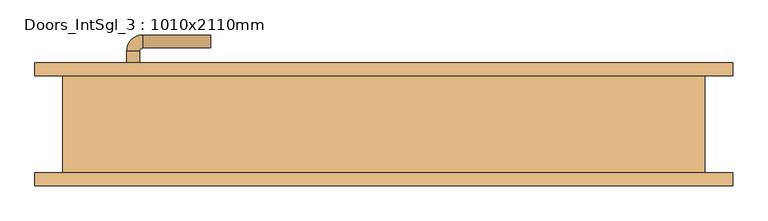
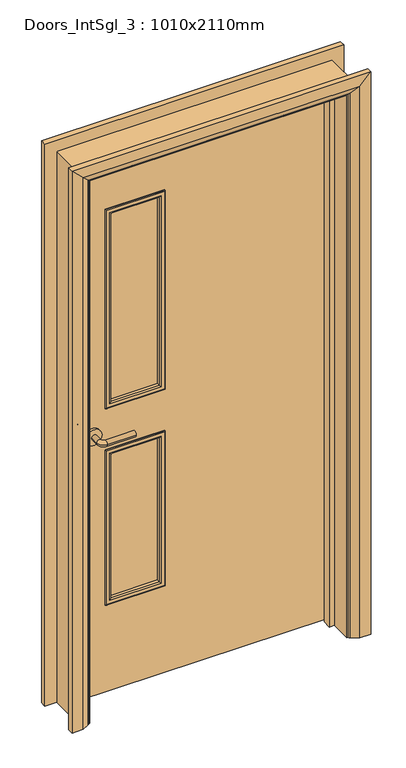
"""IFC4 building model written with IfcOpenShell, lengths in millimetres: door geometry, Doors_IntSgl_3 : 1010x2110mm."""

from ifc_helpers import new_model, si_unit, point, frame, frame_2d, origin, place, context, project, spatial, polyline, circle_curve, ellipse_curve, trimmed, segment, composite_curve, outline, extrude, faceted_brep, source, transform, mapped, element, save
from ifc_brep_helpers import plane_surface, cylinder_surface, revolved_surface, advanced_brep


def doors_intsgl_3_1010x2110mm_4cc0f6b2(model_context):
    return source(origin(), model_context, "Body", "SolidModel", [
        advanced_brep(
        [(-398.0, 29.0, 1000.0), (-378.0, 29.0, 1000.0), (-378.0, -1.0, 1000.0), (-398.0, -1.0, 1000.0), (-373.0, -6.0, 1000.0), (-373.0, -26.0, 1000.0), (-268.0, -26.0, 1000.0), (-268.0, -6.0, 1000.0)],
        [
            (0, 1, circle_curve(frame((-388.0, 29.0, 1000.0), z_axis=(0.0, 1.0, 0.0), x_axis=(1.0, 0.0, 0.0)), 10.0)),
            (1, 0, circle_curve(frame((-388.0, 29.0, 1000.0), z_axis=(0.0, 1.0, 0.0), x_axis=(1.0, 0.0, 0.0)), 10.0)),
            (1, 2),
            (2, 3, circle_curve(frame((-388.0, -1.0, 1000.0), z_axis=(0.0, 1.0, 0.0), x_axis=(1.0, 0.0, 0.0)), 10.0)),
            (3, 0),
            (3, 2, circle_curve(frame((-388.0, -1.0, 1000.0), z_axis=(0.0, 1.0, 0.0), x_axis=(1.0, 0.0, 0.0)), 10.0)),
            (4, 5, circle_curve(frame((-373.0, -16.0, 1000.0), z_axis=(-1.0, 0.0, 0.0), x_axis=(0.0, 1.0, 0.0)), 10.0)),
            (5, 3, circle_curve(frame((-373.0, -1.0, 1000.0), z_axis=(0.0, 0.0, -1.0), x_axis=(-1.0, 0.0, 0.0)), 25.0)),
            (2, 4, circle_curve(frame((-373.0, -1.0, 1000.0), z_axis=(0.0, 0.0, 1.0), x_axis=(-1.0, 0.0, 0.0)), 5.0)),
            (5, 4, circle_curve(frame((-373.0, -16.0, 1000.0), z_axis=(-1.0, 0.0, 0.0), x_axis=(0.0, 1.0, 0.0)), 10.0)),
            (6, 7, circle_curve(frame((-268.0, -16.0, 1000.0), z_axis=(1.0, 0.0, 0.0), x_axis=(0.0, 1.0, 0.0)), 10.0)),
            (7, 6, circle_curve(frame((-268.0, -16.0, 1000.0), z_axis=(1.0, 0.0, 0.0), x_axis=(0.0, 1.0, 0.0)), 10.0)),
            (4, 7),
            (6, 5),
        ],
        [
            plane_surface(frame((-388.0, 29.0, 1000.0), z_axis=(0.0, 1.0, 0.0), x_axis=(0.0, 0.0, 1.0))),
            cylinder_surface(frame((-388.0, 29.0, 1000.0), z_axis=(0.0, 1.0, 0.0), x_axis=(1.0, 0.0, 0.0)), 10.0),
            revolved_surface(trimmed(ellipse_curve(frame((-388.0, -1.0, 1000.0), z_axis=(0.0, -1.0, 0.0), x_axis=(1.0, 0.0, 0.0)), 10.0, 10.0), [point((-398.0, -1.0, 1000.0))], [point((-378.0, -1.0, 1000.0))], True, "CARTESIAN"), (-373.0, -1.0, 1000.0), (0.0, 0.0, -1.0)),
            revolved_surface(trimmed(ellipse_curve(frame((-388.0, -1.0, 1000.0), z_axis=(0.0, -1.0, 0.0), x_axis=(1.0, 0.0, 0.0)), 10.0, 10.0), [point((-378.0, -1.0, 1000.0))], [point((-398.0, -1.0, 1000.0))], True, "CARTESIAN"), (-373.0, -1.0, 1000.0), (0.0, 0.0, -1.0)),
            plane_surface(frame((-268.0, -16.0, 1000.0), z_axis=(1.0, 0.0, 0.0), x_axis=(0.0, 0.0, 1.0))),
            cylinder_surface(frame((-373.0, -16.0, 1000.0), z_axis=(-1.0, 0.0, 0.0), x_axis=(0.0, 1.0, 0.0)), 10.0),
        ],
        [
            (0, [[1, 2]]),
            (1, [[3, 4, 5, -2]]),
            (1, [[-5, 6, -3, -1]]),
            (2, [[7, 8, -4, 9]]),
            (3, [[10, -9, -6, -8]]),
            (4, [[11, 12]]),
            (5, [[13, -11, 14, -7]]),
            (5, [[-14, -12, -13, -10]]),
        ],
    ),
        extrude(outline(composite_curve([segment(trimmed(circle_curve(frame_2d((1000.0, -390.5)), 30.0), [point((1000.0, -420.5))], [point((1000.0, -360.5))], False, "CARTESIAN"), True, "CONTINUOUS"), segment(trimmed(circle_curve(frame_2d((1000.0, -390.5)), 30.0), [point((1000.0, -360.5))], [point((1000.0, -420.5))], False, "CARTESIAN"), True, "CONTINUOUS")], self_intersect=False)), frame((0.0, 29.0, 0.0), z_axis=(0.0, 1.0, 0.0), x_axis=(0.0, 0.0, 1.0)), (0.0, 0.0, 1.0), 8.0),
        advanced_brep(
        [(-398.0, 83.0, 1000.0), (-378.0, 83.0, 1000.0), (-398.0, 113.0, 1000.0), (-378.0, 113.0, 1000.0), (-373.0, 118.0, 1000.0), (-373.0, 138.0, 1000.0), (-268.0, 138.0, 1000.0), (-268.0, 118.0, 1000.0)],
        [
            (0, 1, circle_curve(frame((-388.0, 83.0, 1000.0), z_axis=(0.0, -1.0, 0.0), x_axis=(1.0, 0.0, 0.0)), 10.0)),
            (1, 0, circle_curve(frame((-388.0, 83.0, 1000.0), z_axis=(0.0, -1.0, 0.0), x_axis=(1.0, 0.0, 0.0)), 10.0)),
            (0, 2),
            (2, 3, circle_curve(frame((-388.0, 113.0, 1000.0), z_axis=(0.0, -1.0, 0.0), x_axis=(1.0, 0.0, 0.0)), 10.0)),
            (3, 1),
            (3, 2, circle_curve(frame((-388.0, 113.0, 1000.0), z_axis=(0.0, -1.0, 0.0), x_axis=(1.0, 0.0, 0.0)), 10.0)),
            (4, 3, circle_curve(frame((-373.0, 113.0, 1000.0), z_axis=(0.0, 0.0, 1.0), x_axis=(-1.0, 0.0, 0.0)), 5.0)),
            (2, 5, circle_curve(frame((-373.0, 113.0, 1000.0), z_axis=(0.0, 0.0, -1.0), x_axis=(-1.0, 0.0, 0.0)), 25.0)),
            (5, 4, circle_curve(frame((-373.0, 128.0, 1000.0), z_axis=(-1.0, 0.0, 0.0), x_axis=(0.0, -1.0, 0.0)), 10.0)),
            (4, 5, circle_curve(frame((-373.0, 128.0, 1000.0), z_axis=(-1.0, 0.0, 0.0), x_axis=(0.0, -1.0, 0.0)), 10.0)),
            (6, 7, circle_curve(frame((-268.0, 128.0, 1000.0), z_axis=(1.0, 0.0, 0.0), x_axis=(0.0, -1.0, 0.0)), 10.0)),
            (7, 6, circle_curve(frame((-268.0, 128.0, 1000.0), z_axis=(1.0, 0.0, 0.0), x_axis=(0.0, -1.0, 0.0)), 10.0)),
            (5, 6),
            (7, 4),
        ],
        [
            plane_surface(frame((-388.0, 83.0, 1000.0), z_axis=(0.0, -1.0, 0.0), x_axis=(0.0, 0.0, 1.0))),
            cylinder_surface(frame((-388.0, 83.0, 1000.0), z_axis=(0.0, -1.0, 0.0), x_axis=(1.0, 0.0, 0.0)), 10.0),
            revolved_surface(trimmed(ellipse_curve(frame((-388.0, 113.0, 1000.0), z_axis=(0.0, -1.0, 0.0), x_axis=(1.0, 0.0, 0.0)), 10.0, 10.0), [point((-398.0, 113.0, 1000.0))], [point((-378.0, 113.0, 1000.0))], True, "CARTESIAN"), (-373.0, 113.0, 1000.0), (0.0, 0.0, -1.0)),
            revolved_surface(trimmed(ellipse_curve(frame((-388.0, 113.0, 1000.0), z_axis=(0.0, -1.0, 0.0), x_axis=(1.0, 0.0, 0.0)), 10.0, 10.0), [point((-378.0, 113.0, 1000.0))], [point((-398.0, 113.0, 1000.0))], True, "CARTESIAN"), (-373.0, 113.0, 1000.0), (0.0, 0.0, -1.0)),
            plane_surface(frame((-268.0, 128.0, 1000.0), z_axis=(1.0, 0.0, 0.0), x_axis=(0.0, 0.0, 1.0))),
            cylinder_surface(frame((-373.0, 128.0, 1000.0), z_axis=(-1.0, 0.0, 0.0), x_axis=(0.0, -1.0, 0.0)), 10.0),
        ],
        [
            (0, [[1, 2]]),
            (1, [[-1, 3, 4, 5]]),
            (1, [[-2, -5, 6, -3]]),
            (2, [[7, -4, 8, 9]]),
            (3, [[-8, -6, -7, 10]]),
            (4, [[11, 12]]),
            (5, [[-9, 13, -12, 14]]),
            (5, [[-10, -14, -11, -13]]),
        ],
    ),
        extrude(outline(composite_curve([segment(trimmed(circle_curve(frame_2d((1000.0, -390.5)), 30.0), [point((1000.0, -420.5))], [point((1000.0, -360.5))], False, "CARTESIAN"), True, "CONTINUOUS"), segment(trimmed(circle_curve(frame_2d((1000.0, -390.5)), 30.0), [point((1000.0, -360.5))], [point((1000.0, -420.5))], False, "CARTESIAN"), True, "CONTINUOUS")], self_intersect=False)), frame((0.0, 75.0, 0.0), z_axis=(0.0, 1.0, 0.0), x_axis=(0.0, 0.0, 1.0)), (0.0, 0.0, 1.0), 8.0),
        extrude(outline(polyline([(2068.0, -463.0), (8.0, -463.0), (8.0, 463.0), (2068.0, 463.0), (2068.0, -463.0)]), holes=[polyline([(1843.0, -138.0), (1100.0, -138.0), (1100.0, -338.0), (1843.0, -338.0), (1843.0, -138.0)]), polyline([(925.0, -338.0), (925.0, -138.0), (350.0, -138.0), (350.0, -338.0), (925.0, -338.0)])]), frame((0.0, 37.0, 0.0), z_axis=(0.0, 1.0, 0.0), x_axis=(0.0, 0.0, 1.0)), (0.0, 0.0, 1.0), 38.0),
        advanced_brep(
        [(540.0, 95.0, 0.0), (540.0, 75.0, 0.0), (470.0, 75.0, 0.0), (474.0, 81.0, 0.0), (500.0, 95.0, 0.0), (540.0, 95.0, 2145.0), (540.0, 75.0, 2145.0), (-540.0, 75.0, 2145.0), (-540.0, 75.0, 0.0), (-470.0, 75.0, 0.0), (-470.0, 75.0, 2075.0), (470.0, 75.0, 2075.0), (474.0, 81.0, 2079.0), (500.0, 95.0, 2105.0), (-500.0, 95.0, 2105.0), (-500.0, 95.0, 0.0), (-540.0, 95.0, 0.0), (-540.0, 95.0, 2145.0), (-474.0, 81.0, 0.0), (-474.0, 81.0, 2079.0)],
        [
            (0, 1),
            (1, 2),
            (2, 3, circle_curve(frame((478.0, 74.0, 0.0), z_axis=(0.0, 0.0, -1.0), x_axis=(1.0, 0.0, 0.0)), 8.0622577)),
            (3, 4),
            (4, 0),
            (0, 5),
            (5, 6),
            (6, 1),
            (6, 7),
            (7, 8),
            (8, 9),
            (9, 10),
            (10, 11),
            (11, 2),
            (11, 12, ellipse_curve(frame((478.0, 74.0, 2083.0), z_axis=(0.7071067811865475, 0.0, -0.7071067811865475), x_axis=(-0.7071067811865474, 0.0, -0.7071067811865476)), 11.4017543, 8.0622577)),
            (12, 3),
            (12, 13),
            (13, 4),
            (13, 14),
            (14, 15),
            (15, 16),
            (16, 17),
            (17, 5),
            (7, 17),
            (16, 8),
            (15, 18),
            (18, 9, circle_curve(frame((-478.0, 74.0, 0.0), z_axis=(0.0, 0.0, -1.0), x_axis=(-1.0, 0.0, 0.0)), 8.0622577)),
            (19, 10, ellipse_curve(frame((-478.0, 74.0, 2083.0), z_axis=(-0.7071067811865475, 0.0, -0.7071067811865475), x_axis=(-0.7071067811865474, 0.0, 0.7071067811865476)), 11.4017543, 8.0622577)),
            (18, 19),
            (14, 19),
            (19, 12),
        ],
        [
            plane_surface(frame((470.0, 75.0, 0.0), z_axis=(0.0, 0.0, -1.0), x_axis=(0.0, -1.0, 0.0))),
            plane_surface(frame((540.0, 95.0, 0.0), z_axis=(1.0, 0.0, 0.0), x_axis=(0.0, 0.0, 1.0))),
            plane_surface(frame((540.0, 75.0, 0.0), z_axis=(0.0, -1.0, 0.0), x_axis=(0.0, 0.0, 1.0))),
            cylinder_surface(frame((478.0, 74.0, 0.0), z_axis=(0.0, 0.0, -1.0), x_axis=(1.0, 0.0, 0.0)), 8.0622577),
            plane_surface(frame((474.0, 81.0, 0.0), z_axis=(-0.4740998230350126, 0.8804710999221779, 0.0), x_axis=(0.0, 0.0, 1.0))),
            plane_surface(frame((500.0, 95.0, 0.0), z_axis=(0.0, 1.0, 0.0), x_axis=(0.0, 0.0, 1.0))),
            plane_surface(frame((-540.0, 95.0, 2145.0), z_axis=(-1.0, 0.0, 0.0), x_axis=(0.0, 0.0, -1.0))),
            plane_surface(frame((-470.0, 75.0, 0.0), z_axis=(0.0, 0.0, -1.0), x_axis=(0.0, -1.0, 0.0))),
            cylinder_surface(frame((-478.0, 74.0, 2075.0), z_axis=(0.0, 0.0, 1.0), x_axis=(-1.0, 0.0, 0.0)), 8.0622577),
            plane_surface(frame((-474.0, 81.0, 2079.0), z_axis=(0.4740998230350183, 0.8804710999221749, 0.0), x_axis=(0.0, 0.0, -1.0))),
            plane_surface(frame((540.0, 95.0, 2145.0), z_axis=(0.0, 0.0, 1.0), x_axis=(-1.0, 0.0, 0.0))),
            cylinder_surface(frame((470.0, 74.0, 2083.0), z_axis=(1.0, 0.0, 0.0), x_axis=(0.0, 0.0, 1.0)), 8.0622577),
            plane_surface(frame((474.0, 81.0, 2079.0), z_axis=(0.0, 0.8804710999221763, -0.4740998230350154), x_axis=(-1.0, 0.0, 0.0))),
        ],
        [
            (0, [[1, 2, 3, 4, 5]]),
            (1, [[-1, 6, 7, 8]]),
            (2, [[-2, -8, 9, 10, 11, 12, 13, 14]]),
            (3, [[-3, -14, 15, 16]]),
            (4, [[-4, -16, 17, 18]]),
            (5, [[-5, -18, 19, 20, 21, 22, 23, -6]]),
            (6, [[24, -22, 25, -10]]),
            (7, [[-21, 26, 27, -11, -25]]),
            (8, [[28, -12, -27, 29]]),
            (9, [[30, -29, -26, -20]]),
            (10, [[-7, -23, -24, -9]]),
            (11, [[-15, -13, -28, 31]]),
            (12, [[-17, -31, -30, -19]]),
        ],
    ),
        extrude(outline(polyline([(0.0, -465.0), (0.0, -446.0), (2051.0, -446.0), (2051.0, 446.0), (0.0, 446.0), (0.0, 465.0), (2070.0, 465.0), (2070.0, -465.0), (0.0, -465.0)])), frame((0.0, 3.0, 0.0), z_axis=(0.0, 1.0, 0.0), x_axis=(0.0, 0.0, 1.0)), (0.0, 0.0, 1.0), 32.0),
        advanced_brep(
        [(-540.0, -95.0, 0.0), (-540.0, -75.0, 0.0), (-470.0, -75.0, 0.0), (-474.0, -81.0, 0.0), (-500.0, -95.0, 0.0), (-540.0, -95.0, 2145.0), (-540.0, -75.0, 2145.0), (-470.0, -75.0, 2075.0), (-474.0, -81.0, 2079.0), (-500.0, -95.0, 2105.0), (540.0, -95.0, 0.0), (500.0, -95.0, 0.0), (474.0, -81.0, 0.0), (470.0, -75.0, 0.0), (540.0, -75.0, 0.0), (540.0, -95.0, 2145.0), (500.0, -95.0, 2105.0), (474.0, -81.0, 2079.0), (470.0, -75.0, 2075.0), (540.0, -75.0, 2145.0)],
        [
            (0, 1),
            (1, 2),
            (2, 3, circle_curve(frame((-478.0, -74.0, 0.0), z_axis=(0.0, 0.0, -1.0), x_axis=(-1.0, 0.0, 0.0)), 8.0622577)),
            (3, 4),
            (4, 0),
            (0, 5),
            (5, 6),
            (6, 1),
            (6, 7),
            (7, 2),
            (7, 8, ellipse_curve(frame((-478.0, -74.0, 2083.0), z_axis=(-0.7071067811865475, 0.0, -0.7071067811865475), x_axis=(0.7071067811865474, 0.0, -0.7071067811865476)), 11.4017543, 8.0622577)),
            (8, 3),
            (8, 9),
            (9, 4),
            (9, 5),
            (10, 11),
            (11, 12),
            (12, 13, circle_curve(frame((478.0, -74.0, 0.0), z_axis=(0.0, 0.0, -1.0), x_axis=(1.0, 0.0, 0.0)), 8.0622577)),
            (13, 14),
            (14, 10),
            (15, 16),
            (16, 11),
            (10, 15),
            (16, 17),
            (17, 12),
            (17, 18, ellipse_curve(frame((478.0, -74.0, 2083.0), z_axis=(0.7071067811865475, 0.0, -0.7071067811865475), x_axis=(0.7071067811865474, 0.0, 0.7071067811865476)), 11.4017543, 8.0622577)),
            (18, 13),
            (18, 19),
            (19, 14),
            (19, 15),
            (5, 15),
            (19, 6),
            (18, 7),
            (17, 8),
            (16, 9),
        ],
        [
            plane_surface(frame((-470.0, -147.8010989, 0.0), z_axis=(0.0, 0.0, -1.0), x_axis=(1.0, 0.0, 0.0))),
            plane_surface(frame((-540.0, -95.0, 0.0), z_axis=(-1.0, 0.0, 0.0), x_axis=(0.0, 0.0, 1.0))),
            plane_surface(frame((-540.0, -75.0, 0.0), z_axis=(0.0, 1.0, 0.0), x_axis=(0.0, 0.0, 1.0))),
            cylinder_surface(frame((-478.0, -74.0, 0.0), z_axis=(0.0, 0.0, -1.0), x_axis=(-1.0, 0.0, 0.0)), 8.0622577),
            plane_surface(frame((-474.0, -81.0, 0.0), z_axis=(0.4740998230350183, -0.8804710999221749, 0.0), x_axis=(0.0, 0.0, 1.0))),
            plane_surface(frame((-500.0, -95.0, 0.0), z_axis=(0.0, -1.0, 0.0), x_axis=(0.0, 0.0, 1.0))),
            plane_surface(frame((470.0, -147.8010989, 0.0), z_axis=(0.0, 0.0, -1.0), x_axis=(-1.0, 0.0, 0.0))),
            plane_surface(frame((500.0, -95.0, 2105.0), z_axis=(0.0, -1.0, 0.0), x_axis=(0.0, 0.0, -1.0))),
            plane_surface(frame((474.0, -81.0, 2079.0), z_axis=(-0.4740998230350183, -0.8804710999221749, 0.0), x_axis=(0.0, 0.0, -1.0))),
            cylinder_surface(frame((478.0, -74.0, 2075.0), z_axis=(0.0, 0.0, 1.0), x_axis=(1.0, 0.0, 0.0)), 8.0622577),
            plane_surface(frame((540.0, -75.0, 2145.0), z_axis=(0.0, 1.0, 0.0), x_axis=(0.0, 0.0, -1.0))),
            plane_surface(frame((540.0, -95.0, 2145.0), z_axis=(1.0, 0.0, 0.0), x_axis=(0.0, 0.0, -1.0))),
            plane_surface(frame((-540.0, -95.0, 2145.0), z_axis=(0.0, 0.0, 1.0), x_axis=(1.0, 0.0, 0.0))),
            plane_surface(frame((-540.0, -75.0, 2145.0), z_axis=(0.0, 1.0, 0.0), x_axis=(1.0, 0.0, 0.0))),
            cylinder_surface(frame((-470.0, -74.0, 2083.0), z_axis=(-1.0, 0.0, 0.0), x_axis=(0.0, 0.0, 1.0)), 8.0622577),
            plane_surface(frame((-474.0, -81.0, 2079.0), z_axis=(0.0, -0.8804710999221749, -0.4740998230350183), x_axis=(1.0, 0.0, 0.0))),
            plane_surface(frame((-500.0, -95.0, 2105.0), z_axis=(0.0, -1.0, 0.0), x_axis=(1.0, 0.0, 0.0))),
        ],
        [
            (0, [[1, 2, 3, 4, 5]]),
            (1, [[-1, 6, 7, 8]]),
            (2, [[-2, -8, 9, 10]]),
            (3, [[-3, -10, 11, 12]]),
            (4, [[-4, -12, 13, 14]]),
            (5, [[-5, -14, 15, -6]]),
            (6, [[16, 17, 18, 19, 20]]),
            (7, [[21, 22, -16, 23]]),
            (8, [[24, 25, -17, -22]]),
            (9, [[26, 27, -18, -25]]),
            (10, [[28, 29, -19, -27]]),
            (11, [[30, -23, -20, -29]]),
            (12, [[-7, 31, -30, 32]]),
            (13, [[-9, -32, -28, 33]]),
            (14, [[-11, -33, -26, 34]]),
            (15, [[-13, -34, -24, 35]]),
            (16, [[-15, -35, -21, -31]]),
        ],
    ),
        faceted_brep([(-465.0, 75.0, 0.0), (-465.0, -75.0, 0.0), (-497.0, -75.0, 0.0), (-497.0, 75.0, 0.0), (-465.0, 75.0, 2070.0), (-465.0, -75.0, 2070.0), (-497.0, -75.0, 2102.0), (-497.0, 75.0, 2102.0), (465.0, 75.0, 0.0), (497.0, 75.0, 0.0), (497.0, -75.0, 0.0), (465.0, -75.0, 0.0), (465.0, 75.0, 2070.0), (497.0, 75.0, 2102.0), (497.0, -75.0, 2102.0), (465.0, -75.0, 2070.0)], [[[0, 1, 2, 3]], [[1, 0, 4, 5]], [[2, 1, 5, 6]], [[3, 2, 6, 7]], [[0, 3, 7, 4]], [[8, 9, 10, 11]], [[12, 13, 9, 8]], [[13, 14, 10, 9]], [[14, 15, 11, 10]], [[15, 12, 8, 11]], [[5, 4, 12, 15]], [[6, 5, 15, 14]], [[7, 6, 14, 13]], [[4, 7, 13, 12]]]),
        advanced_brep(
        [(-138.0, 47.0, 925.0), (-138.0, 37.0, 925.0), (-138.0, 37.0, 350.0), (-138.0, 47.0, 350.0), (-150.0, 36.0, 913.0), (-150.0, 47.0, 913.0), (-150.0, 47.0, 362.0), (-150.0, 36.0, 362.0), (-145.0, 31.0, 918.0), (-145.0, 31.0, 357.0), (-130.0, 33.0, 933.0), (-132.0, 31.0, 931.0), (-132.0, 31.0, 344.0), (-130.0, 33.0, 342.0), (-130.0, 37.0, 933.0), (-130.0, 37.0, 342.0), (-338.0, 37.0, 350.0), (-338.0, 47.0, 350.0), (-326.0, 47.0, 362.0), (-326.0, 36.0, 362.0), (-331.0, 31.0, 357.0), (-344.0, 31.0, 344.0), (-346.0, 33.0, 342.0), (-346.0, 37.0, 342.0), (-338.0, 37.0, 925.0), (-338.0, 47.0, 925.0), (-326.0, 47.0, 913.0), (-326.0, 36.0, 913.0), (-331.0, 31.0, 918.0), (-344.0, 31.0, 931.0), (-346.0, 33.0, 933.0), (-346.0, 37.0, 933.0)],
        [
            (0, 1),
            (1, 2),
            (2, 3),
            (3, 0),
            (4, 5),
            (5, 6),
            (6, 7),
            (7, 4),
            (8, 4, ellipse_curve(frame((-145.0, 36.0, 918.0), z_axis=(0.7071067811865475, 0.0, -0.7071067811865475), x_axis=(0.7071067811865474, 0.0, 0.7071067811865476)), 7.0710678, 5.0)),
            (7, 9, ellipse_curve(frame((-145.0, 36.0, 357.0), z_axis=(0.7071067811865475, 0.0, 0.7071067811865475), x_axis=(-0.7071067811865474, 0.0, 0.7071067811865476)), 7.0710678, 5.0)),
            (9, 8),
            (10, 11, ellipse_curve(frame((-132.0, 33.0, 931.0), z_axis=(0.7071067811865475, 0.0, -0.7071067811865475), x_axis=(0.7071067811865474, 0.0, 0.7071067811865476)), 2.8284271, 2.0)),
            (11, 12),
            (12, 13, ellipse_curve(frame((-132.0, 33.0, 344.0), z_axis=(0.7071067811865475, 0.0, 0.7071067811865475), x_axis=(-0.7071067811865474, 0.0, 0.7071067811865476)), 2.8284271, 2.0)),
            (13, 10),
            (14, 10),
            (13, 15),
            (15, 14),
            (2, 16),
            (16, 17),
            (17, 3),
            (6, 18),
            (18, 19),
            (19, 7),
            (19, 20, ellipse_curve(frame((-331.0, 36.0, 357.0), z_axis=(0.7071067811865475, 0.0, -0.7071067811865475), x_axis=(0.7071067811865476, 0.0, 0.7071067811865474)), 7.0710678, 5.0)),
            (20, 9),
            (12, 21),
            (21, 22, ellipse_curve(frame((-344.0, 33.0, 344.0), z_axis=(0.7071067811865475, 0.0, -0.7071067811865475), x_axis=(0.7071067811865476, 0.0, 0.7071067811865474)), 2.8284271, 2.0)),
            (22, 13),
            (22, 23),
            (23, 15),
            (16, 24),
            (24, 25),
            (25, 17),
            (18, 26),
            (26, 27),
            (27, 19),
            (27, 28, ellipse_curve(frame((-331.0, 36.0, 918.0), z_axis=(-0.7071067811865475, 0.0, -0.7071067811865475), x_axis=(0.7071067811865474, 0.0, -0.7071067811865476)), 7.0710678, 5.0)),
            (28, 20),
            (21, 29),
            (29, 30, ellipse_curve(frame((-344.0, 33.0, 931.0), z_axis=(-0.7071067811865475, 0.0, -0.7071067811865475), x_axis=(0.7071067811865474, 0.0, -0.7071067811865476)), 2.8284271, 2.0)),
            (30, 22),
            (30, 31),
            (31, 23),
            (31, 14),
            (1, 24),
            (0, 25),
            (5, 26),
            (4, 27),
            (8, 28),
            (11, 29),
            (10, 30),
        ],
        [
            plane_surface(frame((-138.0, 37.0, 925.0), z_axis=(1.0, 0.0, 0.0), x_axis=(0.0, 0.0, -1.0))),
            plane_surface(frame((-150.0, 47.0, 913.0), z_axis=(-1.0, 0.0, 0.0), x_axis=(0.0, 0.0, -1.0))),
            cylinder_surface(frame((-145.0, 36.0, 925.0), z_axis=(0.0, 0.0, 1.0), x_axis=(1.0, 0.0, 0.0)), 5.0),
            cylinder_surface(frame((-132.0, 33.0, 925.0), z_axis=(0.0, 0.0, 1.0), x_axis=(1.0, 0.0, 0.0)), 2.0),
            plane_surface(frame((-130.0, 33.0, 933.0), z_axis=(1.0, 0.0, 0.0), x_axis=(0.0, 0.0, -1.0))),
            plane_surface(frame((-138.0, 37.0, 350.0), z_axis=(0.0, 0.0, -1.0), x_axis=(-1.0, 0.0, 0.0))),
            plane_surface(frame((-150.0, 47.0, 362.0), z_axis=(0.0, 0.0, 1.0), x_axis=(-1.0, 0.0, 0.0))),
            cylinder_surface(frame((-138.0, 36.0, 357.0), z_axis=(1.0, 0.0, 0.0), x_axis=(0.0, 0.0, -1.0)), 5.0),
            cylinder_surface(frame((-138.0, 33.0, 344.0), z_axis=(1.0, 0.0, 0.0), x_axis=(0.0, 0.0, -1.0)), 2.0),
            plane_surface(frame((-130.0, 33.0, 342.0), z_axis=(0.0, 0.0, -1.0), x_axis=(-1.0, 0.0, 0.0))),
            plane_surface(frame((-338.0, 37.0, 350.0), z_axis=(-1.0, 0.0, 0.0), x_axis=(0.0, 0.0, 1.0))),
            plane_surface(frame((-326.0, 47.0, 362.0), z_axis=(1.0, 0.0, 0.0), x_axis=(0.0, 0.0, 1.0))),
            cylinder_surface(frame((-331.0, 36.0, 350.0), z_axis=(0.0, 0.0, -1.0), x_axis=(-1.0, 0.0, 0.0)), 5.0),
            cylinder_surface(frame((-344.0, 33.0, 350.0), z_axis=(0.0, 0.0, -1.0), x_axis=(-1.0, 0.0, 0.0)), 2.0),
            plane_surface(frame((-346.0, 33.0, 342.0), z_axis=(-1.0, 0.0, 0.0), x_axis=(0.0, 0.0, 1.0))),
            plane_surface(frame((-346.0, 37.0, 933.0), z_axis=(0.0, 1.0, 0.0), x_axis=(1.0, 0.0, 0.0))),
            plane_surface(frame((-338.0, 37.0, 925.0), z_axis=(0.0, 0.0, 1.0), x_axis=(1.0, 0.0, 0.0))),
            plane_surface(frame((-338.0, 47.0, 925.0), z_axis=(0.0, 1.0, 0.0), x_axis=(1.0, 0.0, 0.0))),
            plane_surface(frame((-326.0, 47.0, 913.0), z_axis=(0.0, 0.0, -1.0), x_axis=(1.0, 0.0, 0.0))),
            cylinder_surface(frame((-338.0, 36.0, 918.0), z_axis=(-1.0, 0.0, 0.0), x_axis=(0.0, 0.0, 1.0)), 5.0),
            plane_surface(frame((-331.0, 31.0, 918.0), z_axis=(0.0, -1.0, 0.0), x_axis=(1.0, 0.0, 0.0))),
            cylinder_surface(frame((-338.0, 33.0, 931.0), z_axis=(-1.0, 0.0, 0.0), x_axis=(0.0, 0.0, 1.0)), 2.0),
            plane_surface(frame((-346.0, 33.0, 933.0), z_axis=(0.0, 0.0, 1.0), x_axis=(1.0, 0.0, 0.0))),
        ],
        [
            (0, [[1, 2, 3, 4]]),
            (1, [[5, 6, 7, 8]]),
            (2, [[9, -8, 10, 11]]),
            (3, [[12, 13, 14, 15]]),
            (4, [[16, -15, 17, 18]]),
            (5, [[-3, 19, 20, 21]]),
            (6, [[-7, 22, 23, 24]]),
            (7, [[-10, -24, 25, 26]]),
            (8, [[-14, 27, 28, 29]]),
            (9, [[-17, -29, 30, 31]]),
            (10, [[-20, 32, 33, 34]]),
            (11, [[-23, 35, 36, 37]]),
            (12, [[-25, -37, 38, 39]]),
            (13, [[-28, 40, 41, 42]]),
            (14, [[-30, -42, 43, 44]]),
            (15, [[-31, -44, 45, -18], [46, -32, -19, -2]]),
            (16, [[-33, -46, -1, 47]]),
            (17, [[-21, -34, -47, -4], [48, -35, -22, -6]]),
            (18, [[-36, -48, -5, 49]]),
            (19, [[-38, -49, -9, 50]]),
            (20, [[51, -40, -27, -13], [-26, -39, -50, -11]]),
            (21, [[-41, -51, -12, 52]]),
            (22, [[-43, -52, -16, -45]]),
        ],
    ),
        advanced_brep(
        [(-338.0, 65.0, 925.0), (-338.0, 75.0, 925.0), (-338.0, 75.0, 350.0), (-338.0, 65.0, 350.0), (-326.0, 76.0, 913.0), (-326.0, 65.0, 913.0), (-326.0, 65.0, 362.0), (-326.0, 76.0, 362.0), (-331.0, 81.0, 918.0), (-331.0, 81.0, 357.0), (-346.0, 79.0, 933.0), (-344.0, 81.0, 931.0), (-344.0, 81.0, 344.0), (-346.0, 79.0, 342.0), (-346.0, 75.0, 933.0), (-346.0, 75.0, 342.0), (-138.0, 75.0, 350.0), (-138.0, 65.0, 350.0), (-150.0, 65.0, 362.0), (-150.0, 76.0, 362.0), (-145.0, 81.0, 357.0), (-132.0, 81.0, 344.0), (-130.0, 79.0, 342.0), (-130.0, 75.0, 342.0), (-138.0, 75.0, 925.0), (-138.0, 65.0, 925.0), (-150.0, 65.0, 913.0), (-150.0, 76.0, 913.0), (-145.0, 81.0, 918.0), (-132.0, 81.0, 931.0), (-130.0, 79.0, 933.0), (-130.0, 75.0, 933.0)],
        [
            (0, 1),
            (1, 2),
            (2, 3),
            (3, 0),
            (4, 5),
            (5, 6),
            (6, 7),
            (7, 4),
            (8, 4, ellipse_curve(frame((-331.0, 76.0, 918.0), z_axis=(-0.7071067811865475, 0.0, -0.7071067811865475), x_axis=(-0.7071067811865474, 0.0, 0.7071067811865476)), 7.0710678, 5.0)),
            (7, 9, ellipse_curve(frame((-331.0, 76.0, 357.0), z_axis=(-0.7071067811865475, 0.0, 0.7071067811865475), x_axis=(0.7071067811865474, 0.0, 0.7071067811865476)), 7.0710678, 5.0)),
            (9, 8),
            (10, 11, ellipse_curve(frame((-344.0, 79.0, 931.0), z_axis=(-0.7071067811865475, 0.0, -0.7071067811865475), x_axis=(-0.7071067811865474, 0.0, 0.7071067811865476)), 2.8284271, 2.0)),
            (11, 12),
            (12, 13, ellipse_curve(frame((-344.0, 79.0, 344.0), z_axis=(-0.7071067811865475, 0.0, 0.7071067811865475), x_axis=(0.7071067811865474, 0.0, 0.7071067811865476)), 2.8284271, 2.0)),
            (13, 10),
            (14, 10),
            (13, 15),
            (15, 14),
            (2, 16),
            (16, 17),
            (17, 3),
            (6, 18),
            (18, 19),
            (19, 7),
            (19, 20, ellipse_curve(frame((-145.0, 76.0, 357.0), z_axis=(-0.7071067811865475, 0.0, -0.7071067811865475), x_axis=(-0.7071067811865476, 0.0, 0.7071067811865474)), 7.0710678, 5.0)),
            (20, 9),
            (12, 21),
            (21, 22, ellipse_curve(frame((-132.0, 79.0, 344.0), z_axis=(-0.7071067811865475, 0.0, -0.7071067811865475), x_axis=(-0.7071067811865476, 0.0, 0.7071067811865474)), 2.8284271, 2.0)),
            (22, 13),
            (22, 23),
            (23, 15),
            (16, 24),
            (24, 25),
            (25, 17),
            (18, 26),
            (26, 27),
            (27, 19),
            (27, 28, ellipse_curve(frame((-145.0, 76.0, 918.0), z_axis=(0.7071067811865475, 0.0, -0.7071067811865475), x_axis=(-0.7071067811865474, 0.0, -0.7071067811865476)), 7.0710678, 5.0)),
            (28, 20),
            (21, 29),
            (29, 30, ellipse_curve(frame((-132.0, 79.0, 931.0), z_axis=(0.7071067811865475, 0.0, -0.7071067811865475), x_axis=(-0.7071067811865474, 0.0, -0.7071067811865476)), 2.8284271, 2.0)),
            (30, 22),
            (30, 31),
            (31, 23),
            (31, 14),
            (1, 24),
            (0, 25),
            (5, 26),
            (4, 27),
            (8, 28),
            (11, 29),
            (10, 30),
        ],
        [
            plane_surface(frame((-338.0, 75.0, 925.0), z_axis=(-1.0, 0.0, 0.0), x_axis=(0.0, 0.0, -1.0))),
            plane_surface(frame((-326.0, 65.0, 913.0), z_axis=(1.0, 0.0, 0.0), x_axis=(0.0, 0.0, -1.0))),
            cylinder_surface(frame((-331.0, 76.0, 925.0), z_axis=(0.0, 0.0, 1.0), x_axis=(-1.0, 0.0, 0.0)), 5.0),
            cylinder_surface(frame((-344.0, 79.0, 925.0), z_axis=(0.0, 0.0, 1.0), x_axis=(-1.0, 0.0, 0.0)), 2.0),
            plane_surface(frame((-346.0, 79.0, 933.0), z_axis=(-1.0, 0.0, 0.0), x_axis=(0.0, 0.0, -1.0))),
            plane_surface(frame((-338.0, 75.0, 350.0), z_axis=(0.0, 0.0, -1.0), x_axis=(1.0, 0.0, 0.0))),
            plane_surface(frame((-326.0, 65.0, 362.0), z_axis=(0.0, 0.0, 1.0), x_axis=(1.0, 0.0, 0.0))),
            cylinder_surface(frame((-338.0, 76.0, 357.0), z_axis=(-1.0, 0.0, 0.0), x_axis=(0.0, 0.0, -1.0)), 5.0),
            cylinder_surface(frame((-338.0, 79.0, 344.0), z_axis=(-1.0, 0.0, 0.0), x_axis=(0.0, 0.0, -1.0)), 2.0),
            plane_surface(frame((-346.0, 79.0, 342.0), z_axis=(0.0, 0.0, -1.0), x_axis=(1.0, 0.0, 0.0))),
            plane_surface(frame((-138.0, 75.0, 350.0), z_axis=(1.0, 0.0, 0.0), x_axis=(0.0, 0.0, 1.0))),
            plane_surface(frame((-150.0, 65.0, 362.0), z_axis=(-1.0, 0.0, 0.0), x_axis=(0.0, 0.0, 1.0))),
            cylinder_surface(frame((-145.0, 76.0, 350.0), z_axis=(0.0, 0.0, -1.0), x_axis=(1.0, 0.0, 0.0)), 5.0),
            cylinder_surface(frame((-132.0, 79.0, 350.0), z_axis=(0.0, 0.0, -1.0), x_axis=(1.0, 0.0, 0.0)), 2.0),
            plane_surface(frame((-130.0, 79.0, 342.0), z_axis=(1.0, 0.0, 0.0), x_axis=(0.0, 0.0, 1.0))),
            plane_surface(frame((-130.0, 75.0, 933.0), z_axis=(0.0, -1.0, 0.0), x_axis=(-1.0, 0.0, 0.0))),
            plane_surface(frame((-138.0, 75.0, 925.0), z_axis=(0.0, 0.0, 1.0), x_axis=(-1.0, 0.0, 0.0))),
            plane_surface(frame((-138.0, 65.0, 925.0), z_axis=(0.0, -1.0, 0.0), x_axis=(-1.0, 0.0, 0.0))),
            plane_surface(frame((-150.0, 65.0, 913.0), z_axis=(0.0, 0.0, -1.0), x_axis=(-1.0, 0.0, 0.0))),
            cylinder_surface(frame((-138.0, 76.0, 918.0), z_axis=(1.0, 0.0, 0.0), x_axis=(0.0, 0.0, 1.0)), 5.0),
            plane_surface(frame((-145.0, 81.0, 918.0), z_axis=(0.0, 1.0, 0.0), x_axis=(-1.0, 0.0, 0.0))),
            cylinder_surface(frame((-138.0, 79.0, 931.0), z_axis=(1.0, 0.0, 0.0), x_axis=(0.0, 0.0, 1.0)), 2.0),
            plane_surface(frame((-130.0, 79.0, 933.0), z_axis=(0.0, 0.0, 1.0), x_axis=(-1.0, 0.0, 0.0))),
        ],
        [
            (0, [[1, 2, 3, 4]]),
            (1, [[5, 6, 7, 8]]),
            (2, [[9, -8, 10, 11]]),
            (3, [[12, 13, 14, 15]]),
            (4, [[16, -15, 17, 18]]),
            (5, [[-3, 19, 20, 21]]),
            (6, [[-7, 22, 23, 24]]),
            (7, [[-10, -24, 25, 26]]),
            (8, [[-14, 27, 28, 29]]),
            (9, [[-17, -29, 30, 31]]),
            (10, [[-20, 32, 33, 34]]),
            (11, [[-23, 35, 36, 37]]),
            (12, [[-25, -37, 38, 39]]),
            (13, [[-28, 40, 41, 42]]),
            (14, [[-30, -42, 43, 44]]),
            (15, [[-31, -44, 45, -18], [46, -32, -19, -2]]),
            (16, [[-33, -46, -1, 47]]),
            (17, [[-21, -34, -47, -4], [48, -35, -22, -6]]),
            (18, [[-36, -48, -5, 49]]),
            (19, [[-38, -49, -9, 50]]),
            (20, [[51, -40, -27, -13], [-26, -39, -50, -11]]),
            (21, [[-41, -51, -12, 52]]),
            (22, [[-43, -52, -16, -45]]),
        ],
    ),
        extrude(outline(polyline([(-338.0, 65.0), (-138.0, 65.0), (-138.0, 47.0), (-338.0, 47.0), (-338.0, 65.0)])), frame((0.0, 0.0, 1100.0), z_axis=(0.0, 0.0, 1.0), x_axis=(1.0, 0.0, 0.0)), (0.0, 0.0, 1.0), 743.0),
        extrude(outline(polyline([(-338.0, 65.0), (-138.0, 65.0), (-138.0, 47.0), (-338.0, 47.0), (-338.0, 65.0)])), frame((0.0, 0.0, 350.0), z_axis=(0.0, 0.0, 1.0), x_axis=(1.0, 0.0, 0.0)), (0.0, 0.0, 1.0), 575.0),
        advanced_brep(
        [(-138.0, 47.0, 1843.0), (-138.0, 37.0, 1843.0), (-138.0, 37.0, 1100.0), (-138.0, 47.0, 1100.0), (-150.0, 36.0, 1831.0), (-150.0, 47.0, 1831.0), (-150.0, 47.0, 1112.0), (-150.0, 36.0, 1112.0), (-145.0, 31.0, 1836.0), (-145.0, 31.0, 1107.0), (-130.0, 33.0, 1851.0), (-132.0, 31.0, 1849.0), (-132.0, 31.0, 1094.0), (-130.0, 33.0, 1092.0), (-130.0, 37.0, 1851.0), (-130.0, 37.0, 1092.0), (-338.0, 37.0, 1100.0), (-338.0, 47.0, 1100.0), (-326.0, 47.0, 1112.0), (-326.0, 36.0, 1112.0), (-331.0, 31.0, 1107.0), (-344.0, 31.0, 1094.0), (-346.0, 33.0, 1092.0), (-346.0, 37.0, 1092.0), (-338.0, 37.0, 1843.0), (-338.0, 47.0, 1843.0), (-326.0, 47.0, 1831.0), (-326.0, 36.0, 1831.0), (-331.0, 31.0, 1836.0), (-344.0, 31.0, 1849.0), (-346.0, 33.0, 1851.0), (-346.0, 37.0, 1851.0)],
        [
            (0, 1),
            (1, 2),
            (2, 3),
            (3, 0),
            (4, 5),
            (5, 6),
            (6, 7),
            (7, 4),
            (8, 4, ellipse_curve(frame((-145.0, 36.0, 1836.0), z_axis=(0.7071067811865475, 0.0, -0.7071067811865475), x_axis=(0.7071067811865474, 0.0, 0.7071067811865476)), 7.0710678, 5.0)),
            (7, 9, ellipse_curve(frame((-145.0, 36.0, 1107.0), z_axis=(0.7071067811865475, 0.0, 0.7071067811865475), x_axis=(-0.7071067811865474, 0.0, 0.7071067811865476)), 7.0710678, 5.0)),
            (9, 8),
            (10, 11, ellipse_curve(frame((-132.0, 33.0, 1849.0), z_axis=(0.7071067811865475, 0.0, -0.7071067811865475), x_axis=(0.7071067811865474, 0.0, 0.7071067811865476)), 2.8284271, 2.0)),
            (11, 12),
            (12, 13, ellipse_curve(frame((-132.0, 33.0, 1094.0), z_axis=(0.7071067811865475, 0.0, 0.7071067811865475), x_axis=(-0.7071067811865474, 0.0, 0.7071067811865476)), 2.8284271, 2.0)),
            (13, 10),
            (14, 10),
            (13, 15),
            (15, 14),
            (2, 16),
            (16, 17),
            (17, 3),
            (6, 18),
            (18, 19),
            (19, 7),
            (19, 20, ellipse_curve(frame((-331.0, 36.0, 1107.0), z_axis=(0.7071067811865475, 0.0, -0.7071067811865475), x_axis=(0.7071067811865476, 0.0, 0.7071067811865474)), 7.0710678, 5.0)),
            (20, 9),
            (12, 21),
            (21, 22, ellipse_curve(frame((-344.0, 33.0, 1094.0), z_axis=(0.7071067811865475, 0.0, -0.7071067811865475), x_axis=(0.7071067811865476, 0.0, 0.7071067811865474)), 2.8284271, 2.0)),
            (22, 13),
            (22, 23),
            (23, 15),
            (16, 24),
            (24, 25),
            (25, 17),
            (18, 26),
            (26, 27),
            (27, 19),
            (27, 28, ellipse_curve(frame((-331.0, 36.0, 1836.0), z_axis=(-0.7071067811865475, 0.0, -0.7071067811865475), x_axis=(0.7071067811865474, 0.0, -0.7071067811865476)), 7.0710678, 5.0)),
            (28, 20),
            (21, 29),
            (29, 30, ellipse_curve(frame((-344.0, 33.0, 1849.0), z_axis=(-0.7071067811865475, 0.0, -0.7071067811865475), x_axis=(0.7071067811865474, 0.0, -0.7071067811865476)), 2.8284271, 2.0)),
            (30, 22),
            (30, 31),
            (31, 23),
            (31, 14),
            (1, 24),
            (0, 25),
            (5, 26),
            (4, 27),
            (8, 28),
            (11, 29),
            (10, 30),
        ],
        [
            plane_surface(frame((-138.0, 37.0, 1843.0), z_axis=(1.0, 0.0, 0.0), x_axis=(0.0, 0.0, -1.0))),
            plane_surface(frame((-150.0, 47.0, 1831.0), z_axis=(-1.0, 0.0, 0.0), x_axis=(0.0, 0.0, -1.0))),
            cylinder_surface(frame((-145.0, 36.0, 1843.0), z_axis=(0.0, 0.0, 1.0), x_axis=(1.0, 0.0, 0.0)), 5.0),
            cylinder_surface(frame((-132.0, 33.0, 1843.0), z_axis=(0.0, 0.0, 1.0), x_axis=(1.0, 0.0, 0.0)), 2.0),
            plane_surface(frame((-130.0, 33.0, 1851.0), z_axis=(1.0, 0.0, 0.0), x_axis=(0.0, 0.0, -1.0))),
            plane_surface(frame((-138.0, 37.0, 1100.0), z_axis=(0.0, 0.0, -1.0), x_axis=(-1.0, 0.0, 0.0))),
            plane_surface(frame((-150.0, 47.0, 1112.0), z_axis=(0.0, 0.0, 1.0), x_axis=(-1.0, 0.0, 0.0))),
            cylinder_surface(frame((-138.0, 36.0, 1107.0), z_axis=(1.0, 0.0, 0.0), x_axis=(0.0, 0.0, -1.0)), 5.0),
            cylinder_surface(frame((-138.0, 33.0, 1094.0), z_axis=(1.0, 0.0, 0.0), x_axis=(0.0, 0.0, -1.0)), 2.0),
            plane_surface(frame((-130.0, 33.0, 1092.0), z_axis=(0.0, 0.0, -1.0), x_axis=(-1.0, 0.0, 0.0))),
            plane_surface(frame((-338.0, 37.0, 1100.0), z_axis=(-1.0, 0.0, 0.0), x_axis=(0.0, 0.0, 1.0))),
            plane_surface(frame((-326.0, 47.0, 1112.0), z_axis=(1.0, 0.0, 0.0), x_axis=(0.0, 0.0, 1.0))),
            cylinder_surface(frame((-331.0, 36.0, 1100.0), z_axis=(0.0, 0.0, -1.0), x_axis=(-1.0, 0.0, 0.0)), 5.0),
            cylinder_surface(frame((-344.0, 33.0, 1100.0), z_axis=(0.0, 0.0, -1.0), x_axis=(-1.0, 0.0, 0.0)), 2.0),
            plane_surface(frame((-346.0, 33.0, 1092.0), z_axis=(-1.0, 0.0, 0.0), x_axis=(0.0, 0.0, 1.0))),
            plane_surface(frame((-346.0, 37.0, 1851.0), z_axis=(0.0, 1.0, 0.0), x_axis=(1.0, 0.0, 0.0))),
            plane_surface(frame((-338.0, 37.0, 1843.0), z_axis=(0.0, 0.0, 1.0), x_axis=(1.0, 0.0, 0.0))),
            plane_surface(frame((-338.0, 47.0, 1843.0), z_axis=(0.0, 1.0, 0.0), x_axis=(1.0, 0.0, 0.0))),
            plane_surface(frame((-326.0, 47.0, 1831.0), z_axis=(0.0, 0.0, -1.0), x_axis=(1.0, 0.0, 0.0))),
            cylinder_surface(frame((-338.0, 36.0, 1836.0), z_axis=(-1.0, 0.0, 0.0), x_axis=(0.0, 0.0, 1.0)), 5.0),
            plane_surface(frame((-331.0, 31.0, 1836.0), z_axis=(0.0, -1.0, 0.0), x_axis=(1.0, 0.0, 0.0))),
            cylinder_surface(frame((-338.0, 33.0, 1849.0), z_axis=(-1.0, 0.0, 0.0), x_axis=(0.0, 0.0, 1.0)), 2.0),
            plane_surface(frame((-346.0, 33.0, 1851.0), z_axis=(0.0, 0.0, 1.0), x_axis=(1.0, 0.0, 0.0))),
        ],
        [
            (0, [[1, 2, 3, 4]]),
            (1, [[5, 6, 7, 8]]),
            (2, [[9, -8, 10, 11]]),
            (3, [[12, 13, 14, 15]]),
            (4, [[16, -15, 17, 18]]),
            (5, [[-3, 19, 20, 21]]),
            (6, [[-7, 22, 23, 24]]),
            (7, [[-10, -24, 25, 26]]),
            (8, [[-14, 27, 28, 29]]),
            (9, [[-17, -29, 30, 31]]),
            (10, [[-20, 32, 33, 34]]),
            (11, [[-23, 35, 36, 37]]),
            (12, [[-25, -37, 38, 39]]),
            (13, [[-28, 40, 41, 42]]),
            (14, [[-30, -42, 43, 44]]),
            (15, [[-31, -44, 45, -18], [46, -32, -19, -2]]),
            (16, [[-33, -46, -1, 47]]),
            (17, [[-21, -34, -47, -4], [48, -35, -22, -6]]),
            (18, [[-36, -48, -5, 49]]),
            (19, [[-38, -49, -9, 50]]),
            (20, [[51, -40, -27, -13], [-26, -39, -50, -11]]),
            (21, [[-41, -51, -12, 52]]),
            (22, [[-43, -52, -16, -45]]),
        ],
    ),
        advanced_brep(
        [(-130.0, 79.0, 1851.0), (-130.0, 75.0, 1851.0), (-130.0, 75.0, 1092.0), (-130.0, 79.0, 1092.0), (-132.0, 81.0, 1849.0), (-132.0, 81.0, 1094.0), (-150.0, 76.0, 1831.0), (-145.0, 81.0, 1836.0), (-145.0, 81.0, 1107.0), (-150.0, 76.0, 1112.0), (-150.0, 65.0, 1831.0), (-150.0, 65.0, 1112.0), (-138.0, 75.0, 1843.0), (-138.0, 65.0, 1843.0), (-138.0, 65.0, 1100.0), (-138.0, 75.0, 1100.0), (-346.0, 75.0, 1092.0), (-346.0, 79.0, 1092.0), (-344.0, 81.0, 1094.0), (-331.0, 81.0, 1107.0), (-326.0, 76.0, 1112.0), (-326.0, 65.0, 1112.0), (-338.0, 65.0, 1100.0), (-338.0, 75.0, 1100.0), (-346.0, 75.0, 1851.0), (-346.0, 79.0, 1851.0), (-344.0, 81.0, 1849.0), (-331.0, 81.0, 1836.0), (-326.0, 76.0, 1831.0), (-326.0, 65.0, 1831.0), (-338.0, 65.0, 1843.0), (-338.0, 75.0, 1843.0)],
        [
            (0, 1),
            (1, 2),
            (2, 3),
            (3, 0),
            (4, 0, ellipse_curve(frame((-132.0, 79.0, 1849.0), z_axis=(0.7071067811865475, 0.0, -0.7071067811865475), x_axis=(0.7071067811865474, 0.0, 0.7071067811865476)), 2.8284271, 2.0)),
            (3, 5, ellipse_curve(frame((-132.0, 79.0, 1094.0), z_axis=(0.7071067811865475, 0.0, 0.7071067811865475), x_axis=(-0.7071067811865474, 0.0, 0.7071067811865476)), 2.8284271, 2.0)),
            (5, 4),
            (6, 7, ellipse_curve(frame((-145.0, 76.0, 1836.0), z_axis=(0.7071067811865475, 0.0, -0.7071067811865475), x_axis=(0.7071067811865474, 0.0, 0.7071067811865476)), 7.0710678, 5.0)),
            (7, 8),
            (8, 9, ellipse_curve(frame((-145.0, 76.0, 1107.0), z_axis=(0.7071067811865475, 0.0, 0.7071067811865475), x_axis=(-0.7071067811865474, 0.0, 0.7071067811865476)), 7.0710678, 5.0)),
            (9, 6),
            (10, 6),
            (9, 11),
            (11, 10),
            (12, 13),
            (13, 14),
            (14, 15),
            (15, 12),
            (2, 16),
            (16, 17),
            (17, 3),
            (17, 18, ellipse_curve(frame((-344.0, 79.0, 1094.0), z_axis=(0.7071067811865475, 0.0, -0.7071067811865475), x_axis=(0.7071067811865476, 0.0, 0.7071067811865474)), 2.8284271, 2.0)),
            (18, 5),
            (8, 19),
            (19, 20, ellipse_curve(frame((-331.0, 76.0, 1107.0), z_axis=(0.7071067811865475, 0.0, -0.7071067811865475), x_axis=(0.7071067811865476, 0.0, 0.7071067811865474)), 7.0710678, 5.0)),
            (20, 9),
            (20, 21),
            (21, 11),
            (14, 22),
            (22, 23),
            (23, 15),
            (16, 24),
            (24, 25),
            (25, 17),
            (25, 26, ellipse_curve(frame((-344.0, 79.0, 1849.0), z_axis=(-0.7071067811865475, 0.0, -0.7071067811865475), x_axis=(0.7071067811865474, 0.0, -0.7071067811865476)), 2.8284271, 2.0)),
            (26, 18),
            (19, 27),
            (27, 28, ellipse_curve(frame((-331.0, 76.0, 1836.0), z_axis=(-0.7071067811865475, 0.0, -0.7071067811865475), x_axis=(0.7071067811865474, 0.0, -0.7071067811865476)), 7.0710678, 5.0)),
            (28, 20),
            (28, 29),
            (29, 21),
            (22, 30),
            (30, 31),
            (31, 23),
            (24, 1),
            (0, 25),
            (4, 26),
            (7, 27),
            (6, 28),
            (10, 29),
            (13, 30),
            (12, 31),
        ],
        [
            plane_surface(frame((-130.0, 75.0, 1851.0), z_axis=(1.0, 0.0, 0.0), x_axis=(0.0, 0.0, -1.0))),
            cylinder_surface(frame((-132.0, 79.0, 1843.0), z_axis=(0.0, 0.0, 1.0), x_axis=(1.0, 0.0, 0.0)), 2.0),
            cylinder_surface(frame((-145.0, 76.0, 1843.0), z_axis=(0.0, 0.0, 1.0), x_axis=(1.0, 0.0, 0.0)), 5.0),
            plane_surface(frame((-150.0, 76.0, 1831.0), z_axis=(-1.0, 0.0, 0.0), x_axis=(0.0, 0.0, -1.0))),
            plane_surface(frame((-138.0, 65.0, 1843.0), z_axis=(1.0, 0.0, 0.0), x_axis=(0.0, 0.0, -1.0))),
            plane_surface(frame((-130.0, 75.0, 1092.0), z_axis=(0.0, 0.0, -1.0), x_axis=(-1.0, 0.0, 0.0))),
            cylinder_surface(frame((-138.0, 79.0, 1094.0), z_axis=(1.0, 0.0, 0.0), x_axis=(0.0, 0.0, -1.0)), 2.0),
            cylinder_surface(frame((-138.0, 76.0, 1107.0), z_axis=(1.0, 0.0, 0.0), x_axis=(0.0, 0.0, -1.0)), 5.0),
            plane_surface(frame((-150.0, 76.0, 1112.0), z_axis=(0.0, 0.0, 1.0), x_axis=(-1.0, 0.0, 0.0))),
            plane_surface(frame((-138.0, 65.0, 1100.0), z_axis=(0.0, 0.0, -1.0), x_axis=(-1.0, 0.0, 0.0))),
            plane_surface(frame((-346.0, 75.0, 1092.0), z_axis=(-1.0, 0.0, 0.0), x_axis=(0.0, 0.0, 1.0))),
            cylinder_surface(frame((-344.0, 79.0, 1100.0), z_axis=(0.0, 0.0, -1.0), x_axis=(-1.0, 0.0, 0.0)), 2.0),
            cylinder_surface(frame((-331.0, 76.0, 1100.0), z_axis=(0.0, 0.0, -1.0), x_axis=(-1.0, 0.0, 0.0)), 5.0),
            plane_surface(frame((-326.0, 76.0, 1112.0), z_axis=(1.0, 0.0, 0.0), x_axis=(0.0, 0.0, 1.0))),
            plane_surface(frame((-338.0, 65.0, 1100.0), z_axis=(-1.0, 0.0, 0.0), x_axis=(0.0, 0.0, 1.0))),
            plane_surface(frame((-346.0, 75.0, 1851.0), z_axis=(0.0, 0.0, 1.0), x_axis=(1.0, 0.0, 0.0))),
            cylinder_surface(frame((-338.0, 79.0, 1849.0), z_axis=(-1.0, 0.0, 0.0), x_axis=(0.0, 0.0, 1.0)), 2.0),
            plane_surface(frame((-344.0, 81.0, 1849.0), z_axis=(0.0, 1.0, 0.0), x_axis=(1.0, 0.0, 0.0))),
            cylinder_surface(frame((-338.0, 76.0, 1836.0), z_axis=(-1.0, 0.0, 0.0), x_axis=(0.0, 0.0, 1.0)), 5.0),
            plane_surface(frame((-326.0, 76.0, 1831.0), z_axis=(0.0, 0.0, -1.0), x_axis=(1.0, 0.0, 0.0))),
            plane_surface(frame((-326.0, 65.0, 1831.0), z_axis=(0.0, -1.0, 0.0), x_axis=(1.0, 0.0, 0.0))),
            plane_surface(frame((-338.0, 65.0, 1843.0), z_axis=(0.0, 0.0, 1.0), x_axis=(1.0, 0.0, 0.0))),
            plane_surface(frame((-338.0, 75.0, 1843.0), z_axis=(0.0, -1.0, 0.0), x_axis=(1.0, 0.0, 0.0))),
        ],
        [
            (0, [[1, 2, 3, 4]]),
            (1, [[5, -4, 6, 7]]),
            (2, [[8, 9, 10, 11]]),
            (3, [[12, -11, 13, 14]]),
            (4, [[15, 16, 17, 18]]),
            (5, [[-3, 19, 20, 21]]),
            (6, [[-6, -21, 22, 23]]),
            (7, [[-10, 24, 25, 26]]),
            (8, [[-13, -26, 27, 28]]),
            (9, [[-17, 29, 30, 31]]),
            (10, [[-20, 32, 33, 34]]),
            (11, [[-22, -34, 35, 36]]),
            (12, [[-25, 37, 38, 39]]),
            (13, [[-27, -39, 40, 41]]),
            (14, [[-30, 42, 43, 44]]),
            (15, [[-33, 45, -1, 46]]),
            (16, [[-35, -46, -5, 47]]),
            (17, [[-23, -36, -47, -7], [48, -37, -24, -9]]),
            (18, [[-38, -48, -8, 49]]),
            (19, [[-40, -49, -12, 50]]),
            (20, [[51, -42, -29, -16], [-28, -41, -50, -14]]),
            (21, [[-43, -51, -15, 52]]),
            (22, [[-45, -32, -19, -2], [-31, -44, -52, -18]]),
        ],
    ),
    ])


if __name__ == "__main__":
    model = new_model("IFC4")
    model_context = context("Model", 3, world=origin())
    ifc_project = project(units=[si_unit("LENGTHUNIT", "METRE", prefix="MILLI")], contexts=[model_context])
    site = spatial("IfcSite", under=ifc_project)
    building = spatial("IfcBuilding", under=site)
    placement = place(None, origin())
    doors_intsgl_3_1010x2110mm_shape = doors_intsgl_3_1010x2110mm_4cc0f6b2(model_context)
    element("IfcDoor", 1, ObjectType="Doors_IntSgl_3 : 1010x2110mm", at=placement, inside=building, context=model_context, shape_type="MappedRepresentation", body=[
        mapped(doors_intsgl_3_1010x2110mm_shape, transform((0.0, 0.0, 0.0), x_axis=(1.0, 0.0, 0.0), y_axis=(0.0, 1.0, 0.0), z_axis=(0.0, 0.0, 1.0))),
    ])
    save(model, "model.ifc")
